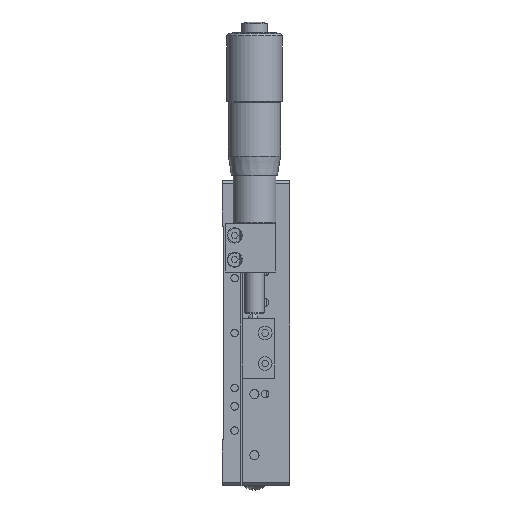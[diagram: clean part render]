
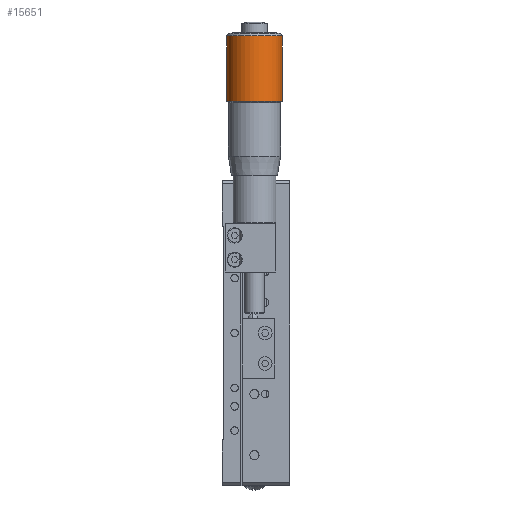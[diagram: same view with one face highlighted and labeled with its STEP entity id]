
A CAD part, front view. The second image highlights one B-rep face of the part: STEP entity #15651.
In plain terms, the highlighted cylindrical face has radius 9.05 mm (diameter 18.1 mm), a partial arc.
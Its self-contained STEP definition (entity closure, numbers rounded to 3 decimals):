
#726 = CARTESIAN_POINT ( 'NONE',  ( 1.45, -12., 24.512 ) ) ;
#5436 = EDGE_CURVE ( 'NONE', #18229, #9286, #38238, .T. ) ;
#6309 = DIRECTION ( 'NONE',  ( 0., 0., 1. ) ) ;
#6433 = AXIS2_PLACEMENT_3D ( 'NONE', #45601, #55147, #36908 ) ;
#9286 = VERTEX_POINT ( 'NONE', #12146 ) ;
#11348 = CARTESIAN_POINT ( 'NONE',  ( 19.55, -12., 24.512 ) ) ;
#12146 = CARTESIAN_POINT ( 'NONE',  ( 19.55, -12., 24.512 ) ) ;
#13307 = CARTESIAN_POINT ( 'NONE',  ( 10.5, -12., 24.512 ) ) ;
#15237 = DIRECTION ( 'NONE',  ( 0., 0., 1. ) ) ;
#15651 = ADVANCED_FACE ( 'NONE', ( #42744 ), #49558, .T. ) ;
#17583 = CIRCLE ( 'NONE', #51969, 9.05 ) ;
#18200 = DIRECTION ( 'NONE',  ( 0., -1., 0. ) ) ;
#18229 = VERTEX_POINT ( 'NONE', #19195 ) ;
#19195 = CARTESIAN_POINT ( 'NONE',  ( 1.45, -12., 24.512 ) ) ;
#20603 = CARTESIAN_POINT ( 'NONE',  ( 1.45, -12., 45.877 ) ) ;
#20702 = VERTEX_POINT ( 'NONE', #20603 ) ;
#23172 = CARTESIAN_POINT ( 'NONE',  ( 19.55, -12., 45.877 ) ) ;
#24617 = ORIENTED_EDGE ( 'NONE', *, *, #56125, .F. ) ;
#25155 = AXIS2_PLACEMENT_3D ( 'NONE', #13307, #47384, #18200 ) ;
#25405 = VECTOR ( 'NONE', #15237, 1000. ) ;
#26976 = LINE ( 'NONE', #726, #25405 ) ;
#31191 = ORIENTED_EDGE ( 'NONE', *, *, #52199, .T. ) ;
#35536 = CARTESIAN_POINT ( 'NONE',  ( 10.5, -12., 45.877 ) ) ;
#36908 = DIRECTION ( 'NONE',  ( 1., 0., 0. ) ) ;
#38238 = CIRCLE ( 'NONE', #25155, 9.05 ) ;
#39883 = LINE ( 'NONE', #11348, #52794 ) ;
#40477 = DIRECTION ( 'NONE',  ( 0., 1., 0. ) ) ;
#40576 = DIRECTION ( 'NONE',  ( 0., 0., 1. ) ) ;
#42744 = FACE_OUTER_BOUND ( 'NONE', #54150, .T. ) ;
#45075 = VERTEX_POINT ( 'NONE', #23172 ) ;
#45601 = CARTESIAN_POINT ( 'NONE',  ( 10.5, -12., 24.512 ) ) ;
#47384 = DIRECTION ( 'NONE',  ( 0., 0., 1. ) ) ;
#47963 = ORIENTED_EDGE ( 'NONE', *, *, #52683, .F. ) ;
#49558 = CYLINDRICAL_SURFACE ( 'NONE', #6433, 9.05 ) ;
#51969 = AXIS2_PLACEMENT_3D ( 'NONE', #35536, #6309, #40477 ) ;
#52199 = EDGE_CURVE ( 'NONE', #9286, #45075, #39883, .T. ) ;
#52683 = EDGE_CURVE ( 'NONE', #20702, #45075, #17583, .T. ) ;
#52794 = VECTOR ( 'NONE', #40576, 1000. ) ;
#54150 = EDGE_LOOP ( 'NONE', ( #24617, #61073, #31191, #47963 ) ) ;
#55147 = DIRECTION ( 'NONE',  ( 0., 0., 1. ) ) ;
#56125 = EDGE_CURVE ( 'NONE', #18229, #20702, #26976, .T. ) ;
#61073 = ORIENTED_EDGE ( 'NONE', *, *, #5436, .T. ) ;
